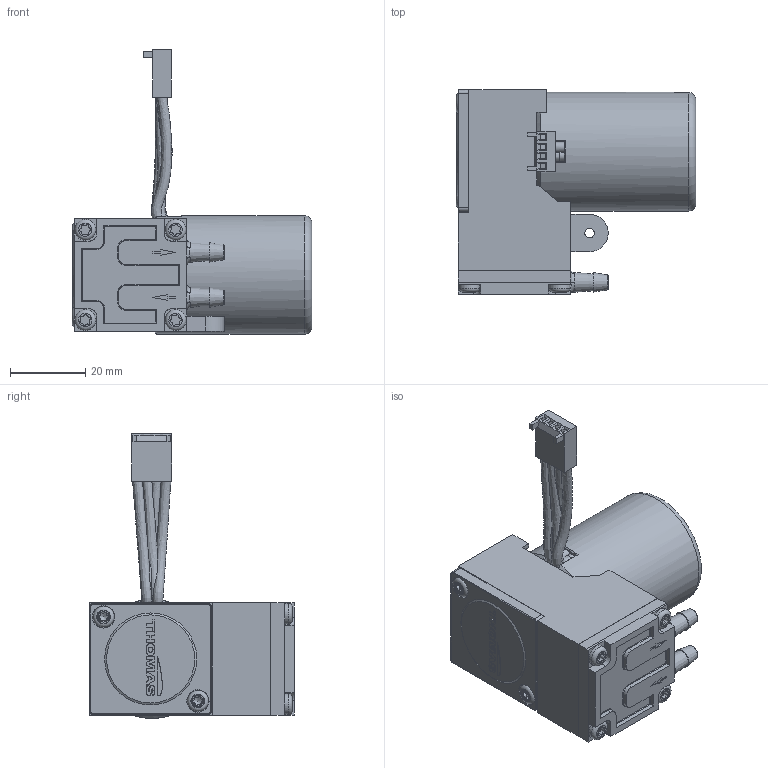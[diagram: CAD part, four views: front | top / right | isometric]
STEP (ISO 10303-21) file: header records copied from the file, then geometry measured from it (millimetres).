
FILE_DESCRIPTION (( 'STEP AP203' ), '1' );
FILE_NAME ('14100216-18.STEP', '2019-09-24T14:24:00', ( 'admin' ), ( 'Gardner Denver' ), 'SwSTEP 2.0', 'SolidWorks 2018', '' );
FILE_SCHEMA (( 'CONFIG_CONTROL_DESIGN' ));
Length unit declared in the file: millimetre
Products named in the file (1): 14100216-18
Bounding box: 63.8 x 54.4 x 75.84 mm (x, y, z)
Volume: 74338.4 mm3; surface area: 17870.8 mm2
Topology: 2 solids, 3 shells, 951 faces, 2748 edges, 1816 vertices
Faces by surface type: plane 732, cylinder 117, cone 51, bspline 28, torus 23
Full cylindrical faces by diameter (mm): 5 x1, 5.55 x4, 5.6 x2, 31.7 x1
Entity records: 32855 total; most frequent: CARTESIAN_POINT 8350, ORIENTED_EDGE 5390, DIRECTION 4566, EDGE_CURVE 2695, VECTOR 2162, LINE 2162, VERTEX_POINT 1800, AXIS2_PLACEMENT_3D 1202
